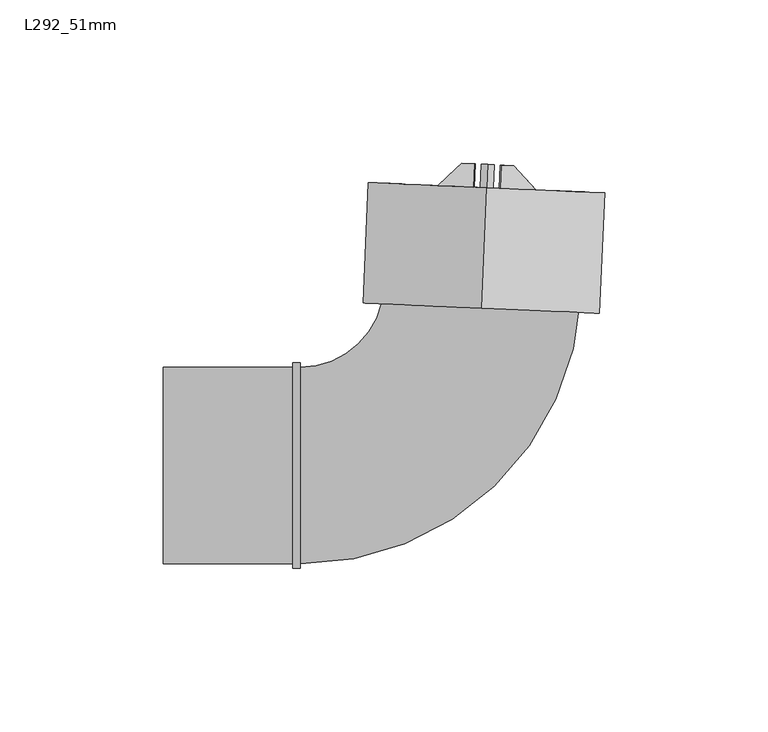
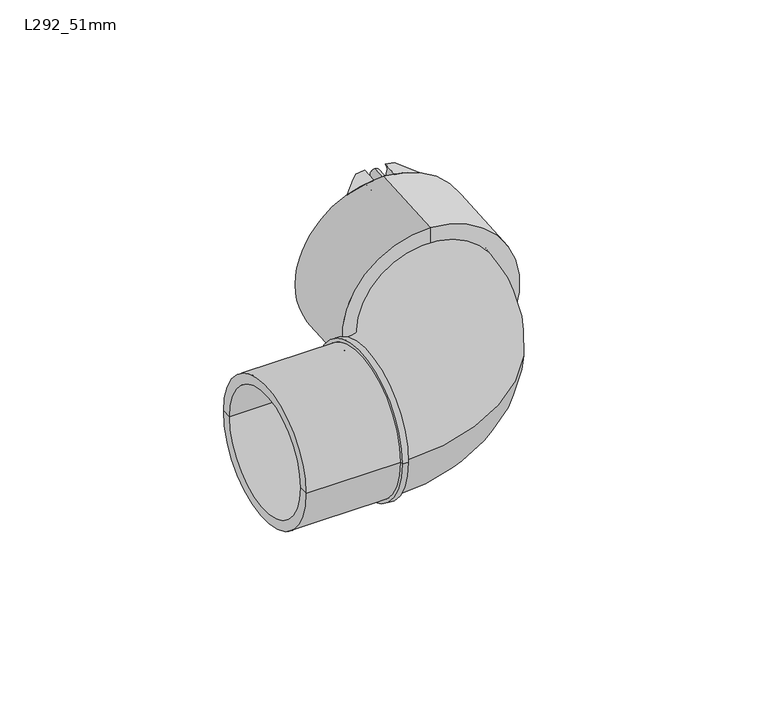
"""IFC4 building model written with IfcOpenShell, lengths in millimetres: pipe fitting geometry, Durapipe_PipeFitting_VulcatheneEnfusion_SingleSocketShortSweepBend_L29 : L292_51mm."""

from ifc_helpers import new_model, si_unit, point, frame, frame_2d, origin, place, context, project, spatial, polyline, circle_curve, ellipse_curve, trimmed, segment, composite_curve, outline, extrude, source, transform, mapped, element, save
from ifc_brep_helpers import plane_surface, cylinder_surface, revolved_surface, advanced_brep


def l292_51mm_6f686604(model_context):
    return source(origin(), model_context, "Body", "SolidModel", [
        advanced_brep(
        [(0.1806257, 92.3011215, -30.0045557), (-0.178766, 92.3168129, -35.9045557), (-3.9098128, 92.4797139, -35.2672497), (-3.9098128, 92.4797139, -29.1893628), (-11.2727909, 85.6944244, -32.8910702), (-0.4884637, 85.2235705, -35.9045557), (-0.1290719, 85.2078791, -30.0045557), (-11.2727909, 85.6944244, -26.2690407)],
        [
            (0, 1, circle_curve(frame((4.0226301, 92.1333759, -33.2), z_axis=(-0.043619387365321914, -0.9990482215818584, 0.0), x_axis=(0.0, 0.0, 1.0)), 5.0)),
            (1, 2, circle_curve(frame((4.0226301, 92.1333759, 0.0), z_axis=(0.043619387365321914, 0.9990482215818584, 0.0), x_axis=(0.0, 0.0, 1.0)), 36.15)),
            (2, 3),
            (3, 0, circle_curve(frame((4.0226301, 92.1333759, 0.0), z_axis=(-0.043619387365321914, -0.9990482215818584, 0.0), x_axis=(0.0, 0.0, 1.0)), 30.25)),
            (4, 5, circle_curve(frame((3.7129324, 85.0401336, 0.0), z_axis=(-0.043619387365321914, -0.9990482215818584, 0.0), x_axis=(0.0, 0.0, 1.0)), 36.15)),
            (5, 6, circle_curve(frame((3.7129324, 85.0401336, -33.2), z_axis=(0.043619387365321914, 0.9990482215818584, 0.0), x_axis=(0.0, 0.0, 1.0)), 5.0)),
            (6, 7, circle_curve(frame((3.7129324, 85.0401336, 0.0), z_axis=(0.043619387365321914, 0.9990482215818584, 0.0), x_axis=(0.0, 0.0, 1.0)), 30.25)),
            (7, 4),
            (6, 0),
            (3, 7, ellipse_curve(frame((4.3709303, 100.1107618, 0.0), z_axis=(-0.6776702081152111, 0.7353659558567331, 0.0), x_axis=(-0.7353659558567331, -0.6776702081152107, 0.0)), 42.9013211, 30.25)),
            (4, 2, ellipse_curve(frame((4.3709303, 100.1107618, 0.0), z_axis=(0.6776702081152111, -0.7353659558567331, 0.0), x_axis=(0.7353659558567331, 0.6776702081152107, 0.0)), 51.2688515, 36.15)),
            (1, 5),
        ],
        [
            plane_surface(frame((-10.9630933, 92.7876668, -32.8910702), z_axis=(0.043619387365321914, 0.9990482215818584, 0.0), x_axis=(0.0, 0.0, 1.0))),
            plane_surface(frame((-11.2727909, 85.6944244, -32.8910702), z_axis=(-0.043619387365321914, -0.9990482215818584, 0.0), x_axis=(0.0, 0.0, -1.0))),
            revolved_surface(polyline([(3.0439679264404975, 69.7183281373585, 30.25), (5.697892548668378, 130.50319546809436, 30.25)]), (3.7129324, 85.0401336, 0.0), (-0.043619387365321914, -0.9990482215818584, 0.0)),
            cylinder_surface(frame((3.7129324, 85.0401336, 0.0), z_axis=(0.043619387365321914, 0.9990482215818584, 0.0), x_axis=(0.0, 0.0, 1.0)), 36.15),
            revolved_surface(polyline([(4.022630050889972, 92.13337598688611, -28.200000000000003), (3.712932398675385, 85.04013356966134, -28.200000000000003)]), (3.7129324, 85.0401336, -33.2), (0.043619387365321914, 0.9990482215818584, 0.0)),
            plane_surface(frame((-11.2727909, 85.6944244, 36.15), z_axis=(-0.6776702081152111, 0.7353659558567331, 0.0), x_axis=(0.0, 0.0, -1.0))),
        ],
        [
            (0, [[1, 2, 3, 4]]),
            (1, [[5, 6, 7, 8]]),
            (2, [[-7, 9, -4, 10]]),
            (3, [[-5, 11, -2, 12]]),
            (4, [[-1, -9, -6, -12]]),
            (5, [[-3, -11, -8, -10]]),
        ],
    ),
        advanced_brep(
        [(8.2240262, 91.949939, -35.9045557), (7.8646344, 91.9656304, -30.0045557), (11.9550729, 91.787038, -29.1893628), (11.9550729, 91.787038, -35.2672497), (7.9143285, 84.8566967, -35.9045557), (18.6986557, 84.3858428, -32.8910702), (18.6986557, 84.3858428, -26.2690407), (7.5549368, 84.872388, -30.0045557)],
        [
            (0, 1, circle_curve(frame((4.0226301, 92.1333759, -33.2), z_axis=(-0.043619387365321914, -0.9990482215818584, 0.0), x_axis=(0.0, 0.0, 1.0)), 5.0)),
            (1, 2, circle_curve(frame((4.0226301, 92.1333759, 0.0), z_axis=(-0.043619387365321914, -0.9990482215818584, 0.0), x_axis=(0.0, 0.0, 1.0)), 30.25)),
            (2, 3),
            (3, 0, circle_curve(frame((4.0226301, 92.1333759, 0.0), z_axis=(0.043619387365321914, 0.9990482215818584, 0.0), x_axis=(0.0, 0.0, 1.0)), 36.15)),
            (4, 5, circle_curve(frame((3.7129324, 85.0401336, 0.0), z_axis=(-0.043619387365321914, -0.9990482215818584, 0.0), x_axis=(0.0, 0.0, 1.0)), 36.15)),
            (5, 6),
            (6, 7, circle_curve(frame((3.7129324, 85.0401336, 0.0), z_axis=(0.043619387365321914, 0.9990482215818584, 0.0), x_axis=(0.0, 0.0, 1.0)), 30.25)),
            (7, 4, circle_curve(frame((3.7129324, 85.0401336, -33.2), z_axis=(0.043619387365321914, 0.9990482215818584, 0.0), x_axis=(0.0, 0.0, 1.0)), 5.0)),
            (6, 2, ellipse_curve(frame((4.3709303, 100.1107618, 0.0), z_axis=(0.7391828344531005, 0.6735048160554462, 0.0), x_axis=(0.6735048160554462, -0.7391828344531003, 0.0)), 42.9013211, 30.25)),
            (1, 7),
            (4, 0),
            (3, 5, ellipse_curve(frame((4.3709303, 100.1107618, 0.0), z_axis=(-0.7391828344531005, -0.6735048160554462, 0.0), x_axis=(-0.6735048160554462, 0.7391828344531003, 0.0)), 51.2688515, 36.15)),
        ],
        [
            plane_surface(frame((-10.9630933, 92.7876668, -32.8910702), z_axis=(0.043619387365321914, 0.9990482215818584, 0.0), x_axis=(0.0, 0.0, 1.0))),
            plane_surface(frame((-11.2727909, 85.6944244, -32.8910702), z_axis=(-0.043619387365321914, -0.9990482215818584, 0.0), x_axis=(0.0, 0.0, -1.0))),
            revolved_surface(polyline([(3.043967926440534, 69.71832813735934, 30.25), (5.697892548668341, 130.50319546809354, 30.25)]), (3.7129324, 85.0401336, 0.0), (-0.043619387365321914, -0.9990482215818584, 0.0)),
            cylinder_surface(frame((3.7129324, 85.0401336, 0.0), z_axis=(0.043619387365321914, 0.9990482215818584, 0.0), x_axis=(0.0, 0.0, 1.0)), 36.15),
            revolved_surface(polyline([(4.022630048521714, 92.13337593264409, -28.200000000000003), (3.712932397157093, 85.04013353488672, -28.200000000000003)]), (3.7129324, 85.0401336, -33.2), (0.043619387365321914, 0.9990482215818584, 0.0)),
            plane_surface(frame((11.9550729, 91.787038, 36.15), z_axis=(0.7391828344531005, 0.6735048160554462, 0.0), x_axis=(0.0, 0.0, -1.0))),
        ],
        [
            (0, [[1, 2, 3, 4]]),
            (1, [[5, 6, 7, 8]]),
            (2, [[-7, 9, -2, 10]]),
            (3, [[-5, 11, -4, 12]]),
            (4, [[-1, -11, -8, -10]]),
            (5, [[-3, -9, -6, -12]]),
        ],
    ),
        advanced_brep(
        [(-0.178766, 92.3168129, 35.9045557), (0.1806257, 92.3011215, 30.0045557), (-3.9098128, 92.4797139, 29.1893628), (-3.9098128, 92.4797139, 35.2672497), (-0.4884637, 85.2235705, 35.9045557), (-11.2727909, 85.6944244, 32.8910702), (-11.2727909, 85.6944244, 26.2690407), (-0.1290719, 85.2078791, 30.0045557)],
        [
            (0, 1, circle_curve(frame((4.0226301, 92.1333759, 33.2), z_axis=(-0.043619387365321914, -0.9990482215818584, 0.0), x_axis=(0.0, 0.0, 1.0)), 5.0)),
            (1, 2, circle_curve(frame((4.0226301, 92.1333759, 0.0), z_axis=(-0.043619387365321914, -0.9990482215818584, 0.0), x_axis=(0.0, 0.0, 1.0)), 30.25)),
            (2, 3),
            (3, 0, circle_curve(frame((4.0226301, 92.1333759, 0.0), z_axis=(0.043619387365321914, 0.9990482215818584, 0.0), x_axis=(0.0, 0.0, 1.0)), 36.15)),
            (4, 5, circle_curve(frame((3.7129324, 85.0401336, 0.0), z_axis=(-0.043619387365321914, -0.9990482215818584, 0.0), x_axis=(0.0, 0.0, 1.0)), 36.15)),
            (5, 6),
            (6, 7, circle_curve(frame((3.7129324, 85.0401336, 0.0), z_axis=(0.043619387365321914, 0.9990482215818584, 0.0), x_axis=(0.0, 0.0, 1.0)), 30.25)),
            (7, 4, circle_curve(frame((3.7129324, 85.0401336, 33.2), z_axis=(0.043619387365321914, 0.9990482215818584, 0.0), x_axis=(0.0, 0.0, 1.0)), 5.0)),
            (6, 2, ellipse_curve(frame((4.3709303, 100.1107618, 0.0), z_axis=(-0.6776702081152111, 0.7353659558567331, 0.0), x_axis=(-0.7353659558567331, -0.6776702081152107, 0.0)), 42.9013211, 30.25)),
            (1, 7),
            (4, 0),
            (3, 5, ellipse_curve(frame((4.3709303, 100.1107618, 0.0), z_axis=(0.6776702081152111, -0.7353659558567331, 0.0), x_axis=(0.7353659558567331, 0.6776702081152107, 0.0)), 51.2688515, 36.15)),
        ],
        [
            plane_surface(frame((-10.9630933, 92.7876668, -32.8910702), z_axis=(0.043619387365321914, 0.9990482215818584, 0.0), x_axis=(0.0, 0.0, 1.0))),
            plane_surface(frame((-11.2727909, 85.6944244, -32.8910702), z_axis=(-0.043619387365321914, -0.9990482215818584, 0.0), x_axis=(0.0, 0.0, -1.0))),
            revolved_surface(polyline([(3.0439679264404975, 69.7183281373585, 30.25), (5.697892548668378, 130.50319546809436, 30.25)]), (3.7129324, 85.0401336, 0.0), (-0.043619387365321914, -0.9990482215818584, 0.0)),
            cylinder_surface(frame((3.7129324, 85.0401336, 0.0), z_axis=(0.043619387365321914, 0.9990482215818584, 0.0), x_axis=(0.0, 0.0, 1.0)), 36.15),
            revolved_surface(polyline([(4.022630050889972, 92.13337598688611, 38.2), (3.712932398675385, 85.04013356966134, 38.2)]), (3.7129324, 85.0401336, 33.2), (0.043619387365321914, 0.9990482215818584, 0.0)),
            plane_surface(frame((-11.2727909, 85.6944244, 36.15), z_axis=(-0.6776702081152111, 0.7353659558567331, 0.0), x_axis=(0.0, 0.0, -1.0))),
        ],
        [
            (0, [[1, 2, 3, 4]]),
            (1, [[5, 6, 7, 8]]),
            (2, [[-7, 9, -2, 10]]),
            (3, [[-5, 11, -4, 12]]),
            (4, [[-1, -11, -8, -10]]),
            (5, [[-3, -9, -6, -12]]),
        ],
    ),
        advanced_brep(
        [(7.8646344, 91.9656304, 30.0045557), (8.2240262, 91.949939, 35.9045557), (11.9550729, 91.787038, 35.2672497), (11.9550729, 91.787038, 29.1893628), (18.6986557, 84.3858428, 32.8910702), (7.9143285, 84.8566967, 35.9045557), (7.5549368, 84.872388, 30.0045557), (18.6986557, 84.3858428, 26.2690407)],
        [
            (0, 1, circle_curve(frame((4.0226301, 92.1333759, 33.2), z_axis=(-0.043619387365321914, -0.9990482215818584, 0.0), x_axis=(0.0, 0.0, 1.0)), 5.0)),
            (1, 2, circle_curve(frame((4.0226301, 92.1333759, 0.0), z_axis=(0.043619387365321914, 0.9990482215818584, 0.0), x_axis=(0.0, 0.0, 1.0)), 36.15)),
            (2, 3),
            (3, 0, circle_curve(frame((4.0226301, 92.1333759, 0.0), z_axis=(-0.043619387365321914, -0.9990482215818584, 0.0), x_axis=(0.0, 0.0, 1.0)), 30.25)),
            (4, 5, circle_curve(frame((3.7129324, 85.0401336, 0.0), z_axis=(-0.043619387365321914, -0.9990482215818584, 0.0), x_axis=(0.0, 0.0, 1.0)), 36.15)),
            (5, 6, circle_curve(frame((3.7129324, 85.0401336, 33.2), z_axis=(0.043619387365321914, 0.9990482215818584, 0.0), x_axis=(0.0, 0.0, 1.0)), 5.0)),
            (6, 7, circle_curve(frame((3.7129324, 85.0401336, 0.0), z_axis=(0.043619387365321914, 0.9990482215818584, 0.0), x_axis=(0.0, 0.0, 1.0)), 30.25)),
            (7, 4),
            (6, 0),
            (3, 7, ellipse_curve(frame((4.3709303, 100.1107618, 0.0), z_axis=(0.7391828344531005, 0.6735048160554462, 0.0), x_axis=(0.6735048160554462, -0.7391828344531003, 0.0)), 42.9013211, 30.25)),
            (4, 2, ellipse_curve(frame((4.3709303, 100.1107618, 0.0), z_axis=(-0.7391828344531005, -0.6735048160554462, 0.0), x_axis=(-0.6735048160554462, 0.7391828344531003, 0.0)), 51.2688515, 36.15)),
            (1, 5),
        ],
        [
            plane_surface(frame((-10.9630933, 92.7876668, -32.8910702), z_axis=(0.043619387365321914, 0.9990482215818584, 0.0), x_axis=(0.0, 0.0, 1.0))),
            plane_surface(frame((-11.2727909, 85.6944244, -32.8910702), z_axis=(-0.043619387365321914, -0.9990482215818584, 0.0), x_axis=(0.0, 0.0, -1.0))),
            revolved_surface(polyline([(3.043967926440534, 69.71832813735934, 30.25), (5.697892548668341, 130.50319546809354, 30.25)]), (3.7129324, 85.0401336, 0.0), (-0.043619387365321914, -0.9990482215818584, 0.0)),
            cylinder_surface(frame((3.7129324, 85.0401336, 0.0), z_axis=(0.043619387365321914, 0.9990482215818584, 0.0), x_axis=(0.0, 0.0, 1.0)), 36.15),
            revolved_surface(polyline([(4.022630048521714, 92.13337593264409, 38.2), (3.712932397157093, 85.04013353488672, 38.2)]), (3.7129324, 85.0401336, 33.2), (0.043619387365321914, 0.9990482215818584, 0.0)),
            plane_surface(frame((11.9550729, 91.787038, 36.15), z_axis=(0.7391828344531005, 0.6735048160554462, 0.0), x_axis=(0.0, 0.0, -1.0))),
        ],
        [
            (0, [[1, 2, 3, 4]]),
            (1, [[5, 6, 7, 8]]),
            (2, [[-7, 9, -4, 10]]),
            (3, [[-5, 11, -2, 12]]),
            (4, [[-1, -9, -6, -12]]),
            (5, [[-3, -11, -8, -10]]),
        ],
    ),
        extrude(outline(composite_curve([segment(trimmed(circle_curve(frame_2d((0.0, -2.0)), 2.0), [point((0.0, -4.0))], [point((0.0, 0.0))], False, "CARTESIAN"), True, "CONTINUOUS"), segment(trimmed(circle_curve(frame_2d((0.0, -2.0)), 2.0), [point((0.0, 0.0))], [point((0.0, -4.0))], False, "CARTESIAN"), True, "CONTINUOUS")], self_intersect=False)), frame((3.7129324, 85.0401336, -31.2), z_axis=(0.043619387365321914, 0.9990482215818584, 0.0), x_axis=(-0.9990482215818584, 0.043619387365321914, 0.0)), (0.0, 0.0, 1.0), 7.1),
        extrude(outline(composite_curve([segment(trimmed(circle_curve(frame_2d((0.0, 64.4)), 2.0), [point((0.0, 62.4))], [point((0.0, 66.4))], False, "CARTESIAN"), True, "CONTINUOUS"), segment(trimmed(circle_curve(frame_2d((0.0, 64.4)), 2.0), [point((0.0, 66.4))], [point((0.0, 62.4))], False, "CARTESIAN"), True, "CONTINUOUS")], self_intersect=False)), frame((3.7129324, 85.0401336, -31.2), z_axis=(0.043619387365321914, 0.9990482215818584, 0.0), x_axis=(-0.9990482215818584, 0.043619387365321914, 0.0)), (0.0, 0.0, 1.0), 7.1),
        advanced_brep(
        [(2.3258359, 53.2704001, -26.0), (2.3258359, 53.2704001, 26.0), (2.3258359, 53.2704001, 30.1), (2.3258359, 53.2704001, -30.1), (2.103377, 48.1752542, -26.0), (2.103377, 48.1752542, 26.0), (2.103377, 48.1752542, -36.3), (2.103377, 48.1752542, 36.3), (3.7129324, 85.0401336, -36.3), (3.7129324, 85.0401336, 36.3), (3.7129324, 85.0401336, -30.1), (3.7129324, 85.0401336, 30.1)],
        [
            (0, 1, circle_curve(frame((2.3258359, 53.2704001, 0.0), z_axis=(-0.043619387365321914, -0.9990482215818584, 0.0), x_axis=(0.0, 0.0, 1.0)), 26.0)),
            (1, 2),
            (2, 3, circle_curve(frame((2.3258359, 53.2704001, 0.0), z_axis=(0.043619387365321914, 0.9990482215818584, 0.0), x_axis=(0.0, 0.0, 1.0)), 30.1)),
            (3, 0),
            (1, 0, circle_curve(frame((2.3258359, 53.2704001, 0.0), z_axis=(-0.043619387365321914, -0.9990482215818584, 0.0), x_axis=(0.0, 0.0, 1.0)), 26.0)),
            (3, 2, circle_curve(frame((2.3258359, 53.2704001, 0.0), z_axis=(0.043619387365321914, 0.9990482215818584, 0.0), x_axis=(0.0, 0.0, 1.0)), 30.1)),
            (4, 5, circle_curve(frame((2.103377, 48.1752542, 0.0), z_axis=(-0.043619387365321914, -0.9990482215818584, 0.0), x_axis=(0.0, 0.0, 1.0)), 26.0)),
            (5, 1),
            (0, 4),
            (5, 4, circle_curve(frame((2.103377, 48.1752542, 0.0), z_axis=(-0.043619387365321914, -0.9990482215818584, 0.0), x_axis=(0.0, 0.0, 1.0)), 26.0)),
            (6, 7, circle_curve(frame((2.103377, 48.1752542, 0.0), z_axis=(-0.043619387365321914, -0.9990482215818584, 0.0), x_axis=(0.0, 0.0, 1.0)), 36.3)),
            (7, 5),
            (4, 6),
            (7, 6, circle_curve(frame((2.103377, 48.1752542, 0.0), z_axis=(-0.043619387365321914, -0.9990482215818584, 0.0), x_axis=(0.0, 0.0, 1.0)), 36.3)),
            (8, 9, circle_curve(frame((3.7129324, 85.0401336, 0.0), z_axis=(-0.043619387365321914, -0.9990482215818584, 0.0), x_axis=(0.0, 0.0, 1.0)), 36.3)),
            (9, 7),
            (6, 8),
            (9, 8, circle_curve(frame((3.7129324, 85.0401336, 0.0), z_axis=(-0.043619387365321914, -0.9990482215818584, 0.0), x_axis=(0.0, 0.0, 1.0)), 36.3)),
            (10, 11, circle_curve(frame((3.7129324, 85.0401336, 0.0), z_axis=(-0.043619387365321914, -0.9990482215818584, 0.0), x_axis=(0.0, 0.0, 1.0)), 30.1)),
            (11, 9),
            (8, 10),
            (11, 10, circle_curve(frame((3.7129324, 85.0401336, 0.0), z_axis=(-0.043619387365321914, -0.9990482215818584, 0.0), x_axis=(0.0, 0.0, 1.0)), 30.1)),
            (2, 11),
            (10, 3),
        ],
        [
            plane_surface(frame((2.3258359, 53.2704001, 0.0), z_axis=(0.043619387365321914, 0.9990482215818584, 0.0), x_axis=(0.0, 0.0, 1.0))),
            revolved_surface(polyline([(2.325835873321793, 53.27040010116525, 26.0), (2.103376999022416, 48.17525420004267, 26.0)]), (113.3713143, 2596.6300032, 0.0), (0.043619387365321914, 0.9990482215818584, 0.0)),
            plane_surface(frame((2.103377, 48.1752542, 0.0), z_axis=(-0.043619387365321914, -0.9990482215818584, 0.0), x_axis=(0.0, 0.0, 1.0))),
            cylinder_surface(frame((113.3713143, 2596.6300032, 0.0), z_axis=(0.043619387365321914, 0.9990482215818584, 0.0), x_axis=(0.0, 0.0, 1.0)), 36.3),
            plane_surface(frame((3.7129324, 85.0401336, 0.0), z_axis=(0.043619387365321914, 0.9990482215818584, 0.0), x_axis=(0.0, 0.0, 1.0))),
            revolved_surface(polyline([(3.7129323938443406, 85.04013360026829, 30.1), (2.325835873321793, 53.27040010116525, 30.1)]), (113.3713143, 2596.6300032, 0.0), (0.043619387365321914, 0.9990482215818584, 0.0)),
        ],
        [
            (0, [[1, 2, 3, 4]]),
            (0, [[5, -4, 6, -2]]),
            (1, [[7, 8, -1, 9]]),
            (1, [[10, -9, -5, -8]]),
            (2, [[11, 12, -7, 13]]),
            (2, [[14, -13, -10, -12]]),
            (3, [[15, 16, -11, 17]]),
            (3, [[18, -17, -14, -16]]),
            (4, [[19, 20, -15, 21]]),
            (4, [[22, -21, -18, -20]]),
            (5, [[-3, 23, -19, 24]]),
            (5, [[-6, -24, -22, -23]]),
        ],
    ),
        advanced_brep(
        [(-53.32115, -31.497, 0.0), (-53.32115, 31.497, 0.0), (-53.32115, 30.1, 0.0), (-53.32115, -30.1, 0.0), (-55.68335, -31.497, 0.0), (-55.68335, 31.497, 0.0), (-55.68335, -30.1, 0.0), (-55.68335, 30.1, 0.0), (-95.28335, -30.1, 0.0), (-95.28335, 30.1, 0.0), (-95.28335, -26.0, 0.0), (-95.28335, 26.0, 0.0), (-53.32115, -26.0, 0.0), (-53.32115, -21.0344419, -15.2824166), (-53.32115, -8.0344419, -24.7274694), (-53.32115, 8.0344419, -24.7274694), (-53.32115, 21.0344419, -15.2824166), (-53.32115, 26.0, 0.0), (-53.32115, 21.0344419, 15.2824166), (-53.32115, 8.0344419, 24.7274694), (-53.32115, -8.0344419, 24.7274694), (-53.32115, -21.0344419, 15.2824166), (32.3971874, 51.9574566, 0.0), (-27.7455156, 54.5833437, 0.0), (28.3010897, 52.1362961, 0.0), (-23.6494179, 54.4045042, 0.0)],
        [
            (0, 1, circle_curve(frame((-53.32115, 0.0, 0.0), z_axis=(1.0, 0.0, 0.0), x_axis=(0.0, 1.0, 0.0)), 31.497)),
            (1, 2),
            (2, 3, circle_curve(frame((-53.32115, 0.0, 0.0), z_axis=(-1.0, 0.0, 0.0), x_axis=(0.0, 1.0, 0.0)), 30.1)),
            (3, 0),
            (1, 0, circle_curve(frame((-53.32115, 0.0, 0.0), z_axis=(1.0, 0.0, 0.0), x_axis=(0.0, 1.0, 0.0)), 31.497)),
            (3, 2, circle_curve(frame((-53.32115, 0.0, 0.0), z_axis=(-1.0, 0.0, 0.0), x_axis=(0.0, 1.0, 0.0)), 30.1)),
            (0, 4),
            (4, 5, circle_curve(frame((-55.68335, 0.0, 0.0), z_axis=(1.0, 0.0, 0.0), x_axis=(0.0, 1.0, 0.0)), 31.497)),
            (5, 1),
            (5, 4, circle_curve(frame((-55.68335, 0.0, 0.0), z_axis=(1.0, 0.0, 0.0), x_axis=(0.0, 1.0, 0.0)), 31.497)),
            (4, 6),
            (6, 7, circle_curve(frame((-55.68335, 0.0, 0.0), z_axis=(1.0, 0.0, 0.0), x_axis=(0.0, 1.0, 0.0)), 30.1)),
            (7, 5),
            (7, 6, circle_curve(frame((-55.68335, 0.0, 0.0), z_axis=(1.0, 0.0, 0.0), x_axis=(0.0, 1.0, 0.0)), 30.1)),
            (6, 8),
            (8, 9, circle_curve(frame((-95.28335, 0.0, 0.0), z_axis=(1.0, 0.0, 0.0), x_axis=(0.0, 1.0, 0.0)), 30.1)),
            (9, 7),
            (9, 8, circle_curve(frame((-95.28335, 0.0, 0.0), z_axis=(1.0, 0.0, 0.0), x_axis=(0.0, 1.0, 0.0)), 30.1)),
            (8, 10),
            (10, 11, circle_curve(frame((-95.28335, 0.0, 0.0), z_axis=(1.0, 0.0, 0.0), x_axis=(0.0, 1.0, 0.0)), 26.0)),
            (11, 9),
            (11, 10, circle_curve(frame((-95.28335, 0.0, 0.0), z_axis=(1.0, 0.0, 0.0), x_axis=(0.0, 1.0, 0.0)), 26.0)),
            (10, 12),
            (12, 13, circle_curve(frame((-53.32115, 0.0, 0.0), z_axis=(1.0, 0.0, 0.0), x_axis=(0.0, 1.0, 0.0)), 26.0)),
            (13, 14, circle_curve(frame((-53.32115, 0.0, 0.0), z_axis=(1.0, 0.0, 0.0), x_axis=(0.0, 1.0, 0.0)), 26.0)),
            (14, 15, circle_curve(frame((-53.32115, 0.0, 0.0), z_axis=(1.0, 0.0, 0.0), x_axis=(0.0, 1.0, 0.0)), 26.0)),
            (15, 16, circle_curve(frame((-53.32115, 0.0, 0.0), z_axis=(1.0, 0.0, 0.0), x_axis=(0.0, 1.0, 0.0)), 26.0)),
            (16, 17, circle_curve(frame((-53.32115, 0.0, 0.0), z_axis=(1.0, 0.0, 0.0), x_axis=(0.0, 1.0, 0.0)), 26.0)),
            (17, 11),
            (17, 18, circle_curve(frame((-53.32115, 0.0, 0.0), z_axis=(1.0, 0.0, 0.0), x_axis=(0.0, 1.0, 0.0)), 26.0)),
            (18, 19, circle_curve(frame((-53.32115, 0.0, 0.0), z_axis=(1.0, 0.0, 0.0), x_axis=(0.0, 1.0, 0.0)), 26.0)),
            (19, 20, circle_curve(frame((-53.32115, 0.0, 0.0), z_axis=(1.0, 0.0, 0.0), x_axis=(0.0, 1.0, 0.0)), 26.0)),
            (20, 21, circle_curve(frame((-53.32115, 0.0, 0.0), z_axis=(1.0, 0.0, 0.0), x_axis=(0.0, 1.0, 0.0)), 26.0)),
            (21, 12, circle_curve(frame((-53.32115, 0.0, 0.0), z_axis=(1.0, 0.0, 0.0), x_axis=(0.0, 1.0, 0.0)), 26.0)),
            (22, 23, circle_curve(frame((2.3258359, 53.2704001, 0.0), z_axis=(0.04361938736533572, 0.9990482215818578, 0.0), x_axis=(-0.9990482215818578, 0.04361938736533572, 0.0)), 30.1)),
            (23, 22, circle_curve(frame((2.3258359, 53.2704001, 0.0), z_axis=(0.04361938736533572, 0.9990482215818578, 0.0), x_axis=(-0.9990482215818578, 0.04361938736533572, 0.0)), 30.1)),
            (24, 25, circle_curve(frame((2.3258359, 53.2704001, 0.0), z_axis=(-0.04361938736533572, -0.9990482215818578, 0.0), x_axis=(-0.9990482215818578, 0.04361938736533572, 0.0)), 26.0)),
            (25, 24, circle_curve(frame((2.3258359, 53.2704001, 0.0), z_axis=(-0.04361938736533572, -0.9990482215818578, 0.0), x_axis=(-0.9990482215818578, 0.04361938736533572, 0.0)), 26.0)),
            (23, 2, circle_curve(frame((-53.32115, 55.7, 0.0), z_axis=(0.0, 0.0, -1.0), x_axis=(0.0, -1.0, 0.0)), 25.6)),
            (3, 22, circle_curve(frame((-53.32115, 55.7, 0.0), z_axis=(0.0, 0.0, 1.0), x_axis=(0.0, -1.0, 0.0)), 85.8)),
            (25, 17, circle_curve(frame((-53.32115, 55.7, 0.0), z_axis=(0.0, 0.0, -1.0), x_axis=(0.0, -1.0, 0.0)), 29.7)),
            (12, 24, circle_curve(frame((-53.32115, 55.7, 0.0), z_axis=(0.0, 0.0, 1.0), x_axis=(0.0, -1.0, 0.0)), 81.7)),
        ],
        [
            plane_surface(frame((-53.32115, 0.0, 0.0), z_axis=(1.0, 0.0, 0.0), x_axis=(0.0, 1.0, 0.0))),
            cylinder_surface(frame((1571.7386925, 0.0, 0.0), z_axis=(-1.0, 0.0, 0.0), x_axis=(0.0, 1.0, 0.0)), 31.497),
            plane_surface(frame((-55.68335, 0.0, 0.0), z_axis=(-1.0, 0.0, 0.0), x_axis=(0.0, 1.0, 0.0))),
            cylinder_surface(frame((1571.7386925, 0.0, 0.0), z_axis=(-1.0, 0.0, 0.0), x_axis=(0.0, 1.0, 0.0)), 30.1),
            plane_surface(frame((-95.28335, 0.0, 0.0), z_axis=(-1.0, 0.0, 0.0), x_axis=(0.0, 1.0, 0.0))),
            revolved_surface(polyline([(-95.28334999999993, 26.0, 0.0), (-53.32114999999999, 26.0, 0.0)]), (1571.7386925, 0.0, 0.0), (-1.0, 0.0, 0.0)),
            plane_surface(frame((2.3258359, 53.2704001, 0.0), z_axis=(0.04361938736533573, 0.9990482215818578, 0.0), x_axis=(0.0, 0.0, 1.0))),
            revolved_surface(trimmed(ellipse_curve(frame((-53.32115, 0.0, 0.0), z_axis=(-1.0, 0.0, 0.0), x_axis=(0.0, 1.0, 0.0)), 30.1, 30.1), [point((-53.32115, -30.1, 0.0))], [point((-53.32115, 30.1, 0.0))], True, "CARTESIAN"), (-53.32115, 55.7, 0.0), (0.0, 0.0, 1.0)),
            revolved_surface(trimmed(ellipse_curve(frame((-53.32115, 0.0, 0.0), z_axis=(-1.0, 0.0, 0.0), x_axis=(0.0, 1.0, 0.0)), 30.1, 30.1), [point((-53.32115, 30.1, 0.0))], [point((-53.32115, -30.1, 0.0))], True, "CARTESIAN"), (-53.32115, 55.7, 0.0), (0.0, 0.0, 1.0)),
            revolved_surface(trimmed(ellipse_curve(frame((-53.32115, 0.0, 0.0), z_axis=(1.0, 0.0, 0.0), x_axis=(0.0, 1.0, 0.0)), 26.0, 26.0), [point((-53.32115, -26.0, 0.0))], [point((-53.32115, 26.0, 0.0))], True, "CARTESIAN"), (-53.32115, 55.7, 0.0), (0.0, 0.0, 1.0)),
            revolved_surface(trimmed(ellipse_curve(frame((-53.32115, 0.0, 0.0), z_axis=(1.0, 0.0, 0.0), x_axis=(0.0, 1.0, 0.0)), 26.0, 26.0), [point((-53.32115, 26.0, 0.0))], [point((-53.32115, -26.0, 0.0))], True, "CARTESIAN"), (-53.32115, 55.7, 0.0), (0.0, 0.0, 1.0)),
        ],
        [
            (0, [[1, 2, 3, 4]]),
            (0, [[5, -4, 6, -2]]),
            (1, [[-1, 7, 8, 9]]),
            (1, [[-5, -9, 10, -7]]),
            (2, [[-8, 11, 12, 13]]),
            (2, [[-10, -13, 14, -11]]),
            (3, [[-12, 15, 16, 17]]),
            (3, [[-14, -17, 18, -15]]),
            (4, [[-16, 19, 20, 21]]),
            (4, [[-18, -21, 22, -19]]),
            (5, [[-20, 23, 24, 25, 26, 27, 28, 29]]),
            (5, [[-22, -29, 30, 31, 32, 33, 34, -23]]),
            (6, [[35, 36], [37, 38]]),
            (7, [[-36, 39, -6, 40]]),
            (8, [[-35, -40, -3, -39]]),
            (9, [[-38, 41, -28, -27, -26, -25, -24, 42]]),
            (10, [[-37, -42, -34, -33, -32, -31, -30, -41]]),
        ],
    ),
    ])


if __name__ == "__main__":
    model = new_model("IFC4")
    model_context = context("Model", 3, world=origin())
    ifc_project = project(units=[si_unit("LENGTHUNIT", "METRE", prefix="MILLI")], contexts=[model_context])
    site = spatial("IfcSite", under=ifc_project)
    building = spatial("IfcBuilding", under=site)
    placement = place(None, origin())
    l292_51mm_shape = l292_51mm_6f686604(model_context)
    element("IfcPipeFitting", 1, ObjectType="Durapipe_PipeFitting_VulcatheneEnfusion_SingleSocketShortSweepBend_L29 : L292_51mm", at=placement, inside=building, context=model_context, shape_type="MappedRepresentation", body=[
        mapped(l292_51mm_shape, transform((0.0, 0.0, 0.0), x_axis=(1.0, 0.0, 0.0), y_axis=(0.0, 1.0, 0.0), z_axis=(0.0, 0.0, 1.0))),
    ])
    save(model, "model.ifc")
